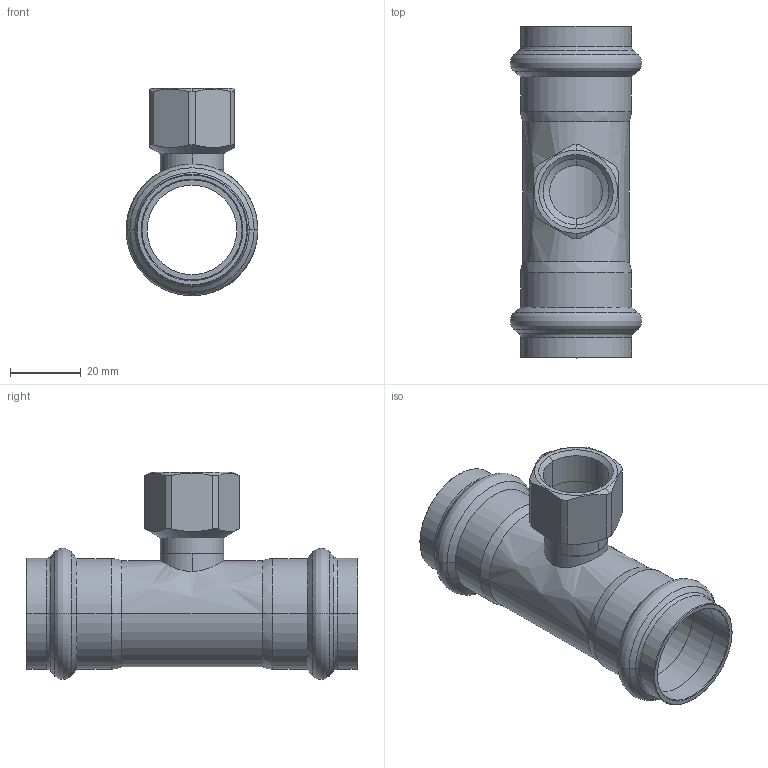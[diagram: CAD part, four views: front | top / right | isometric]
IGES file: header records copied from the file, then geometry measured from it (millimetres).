
Start section: Elysium IGES Interface
Global section: file name: C:\Users\Wallenburg\Desktop\3d modellen sudo\S-Pr VP\SP6130GV\6130GVW281228.igs; native system: CoCreate Modeling 17.00A  17-Jun-2010; preprocessor: CoCreate IGES_3D V2.2; author: Unknown; organization: Unknown; date: 20130121.145744; units: millimetre
Bounding box: 37.2 x 93.81 x 58.59 mm (x, y, z)
Volume: 20316 mm3; surface area: 22126.1 mm2
Topology: 1 solids, 1 shells, 117 faces, 262 edges, 154 vertices
Faces by surface type: bspline 117
